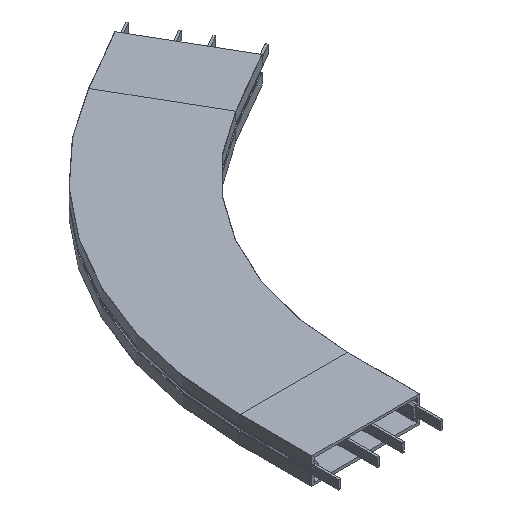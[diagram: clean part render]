
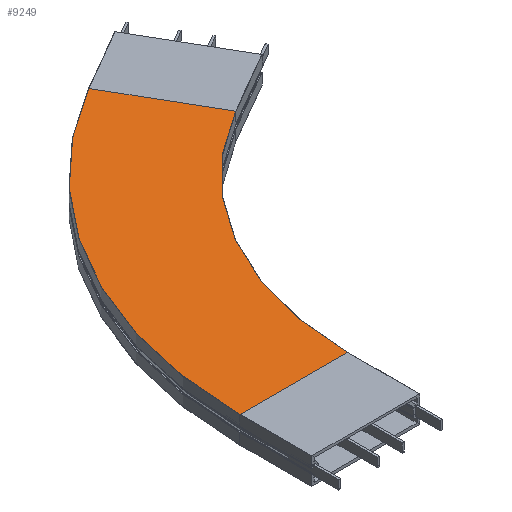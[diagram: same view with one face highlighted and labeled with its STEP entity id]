
A CAD part, isometric view. The second image highlights one B-rep face of the part: STEP entity #9249.
In plain terms, the highlighted planar face has unit normal (0, 0, 1).
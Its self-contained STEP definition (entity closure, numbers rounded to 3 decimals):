
#111 = CARTESIAN_POINT ( 'NONE',  ( -850.5, 0., 37. ) ) ;
#142 = CARTESIAN_POINT ( 'NONE',  ( -1149.5, 0., 37. ) ) ;
#316 = ORIENTED_EDGE ( 'NONE', *, *, #3153, .T. ) ;
#1225 = EDGE_CURVE ( 'NONE', #5902, #5264, #8860, .T. ) ;
#1382 = CARTESIAN_POINT ( 'NONE',  ( -425.25, 736.555, 37. ) ) ;
#2045 = CARTESIAN_POINT ( 'NONE',  ( -425.25, 736.555, 37. ) ) ;
#2188 = CIRCLE ( 'NONE', #4476, 1149.5 ) ;
#2399 = VERTEX_POINT ( 'NONE', #111 ) ;
#2420 = VECTOR ( 'NONE', #5832, 1000. ) ;
#2480 = LINE ( 'NONE', #7764, #5258 ) ;
#2719 = EDGE_CURVE ( 'NONE', #5264, #5420, #2188, .T. ) ;
#3153 = EDGE_CURVE ( 'NONE', #5420, #2399, #2480, .T. ) ;
#3460 = ORIENTED_EDGE ( 'NONE', *, *, #1225, .T. ) ;
#3704 = CARTESIAN_POINT ( 'NONE',  ( -500., 866.025, 37. ) ) ;
#4108 = DIRECTION ( 'NONE',  ( 1., 0., 0. ) ) ;
#4148 = DIRECTION ( 'NONE',  ( 0., 0., 1. ) ) ;
#4178 = DIRECTION ( 'NONE',  ( 0., 0., 1. ) ) ;
#4232 = CIRCLE ( 'NONE', #8053, 850.5 ) ;
#4245 = CARTESIAN_POINT ( 'NONE',  ( 0., 0., 37. ) ) ;
#4304 = DIRECTION ( 'NONE',  ( 0., 0., 1. ) ) ;
#4374 = AXIS2_PLACEMENT_3D ( 'NONE', #1382, #4304, #4903 ) ;
#4391 = ORIENTED_EDGE ( 'NONE', *, *, #2719, .T. ) ;
#4476 = AXIS2_PLACEMENT_3D ( 'NONE', #4245, #4148, #4965 ) ;
#4903 = DIRECTION ( 'NONE',  ( 1., 0., 0. ) ) ;
#4965 = DIRECTION ( 'NONE',  ( -0.5, 0.866, 0. ) ) ;
#5039 = FACE_OUTER_BOUND ( 'NONE', #8554, .T. ) ;
#5129 = ORIENTED_EDGE ( 'NONE', *, *, #8805, .F. ) ;
#5258 = VECTOR ( 'NONE', #4108, 1000. ) ;
#5264 = VERTEX_POINT ( 'NONE', #5776 ) ;
#5420 = VERTEX_POINT ( 'NONE', #142 ) ;
#5776 = CARTESIAN_POINT ( 'NONE',  ( -574.75, 995.496, 37. ) ) ;
#5832 = DIRECTION ( 'NONE',  ( -0.5, 0.866, 0. ) ) ;
#5902 = VERTEX_POINT ( 'NONE', #2045 ) ;
#7764 = CARTESIAN_POINT ( 'NONE',  ( -850.5, 0., 37. ) ) ;
#7962 = PLANE ( 'NONE',  #4374 ) ;
#7973 = CARTESIAN_POINT ( 'NONE',  ( 0., 0., 37. ) ) ;
#8053 = AXIS2_PLACEMENT_3D ( 'NONE', #7973, #4178, #8603 ) ;
#8554 = EDGE_LOOP ( 'NONE', ( #5129, #3460, #4391, #316 ) ) ;
#8603 = DIRECTION ( 'NONE',  ( -0.5, 0.866, 0. ) ) ;
#8805 = EDGE_CURVE ( 'NONE', #5902, #2399, #4232, .T. ) ;
#8860 = LINE ( 'NONE', #3704, #2420 ) ;
#9249 = ADVANCED_FACE ( 'NONE', ( #5039 ), #7962, .T. ) ;
